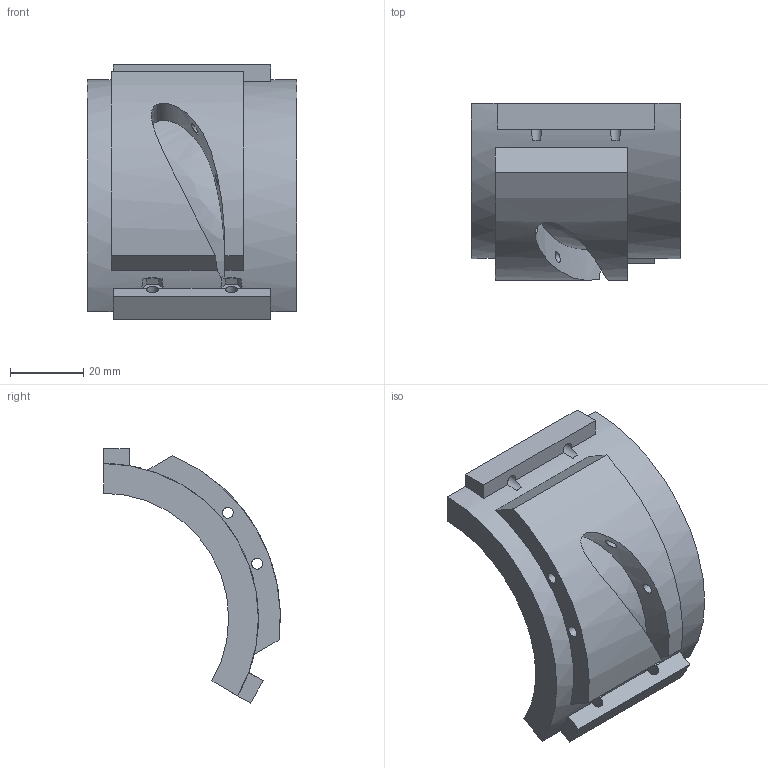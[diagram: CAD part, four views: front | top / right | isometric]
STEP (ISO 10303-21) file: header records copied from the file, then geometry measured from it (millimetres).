
FILE_DESCRIPTION(('Open CASCADE Model'),'2;1');
FILE_NAME('Open CASCADE Shape Model','2026-10-31T23:30:59',('Author'),( 'Open CASCADE'),'Open CASCADE STEP processor 7.9','Open CASCADE 7.9' ,'Unknown');
FILE_SCHEMA(('AUTOMOTIVE_DESIGN { 1 0 10303 214 1 1 1 1 }'));
Length unit declared in the file: millimetre
Products named in the file (1): Open CASCADE STEP translator 7.9 18
Bounding box: 57 x 48.19 x 69.3 mm (x, y, z)
Volume: 31846.3 mm3; surface area: 15745.9 mm2
Topology: 1 solids, 1 shells, 62 faces, 190 edges, 127 vertices
Faces by surface type: plane 43, cylinder 15, bspline 4
Full cylindrical faces by diameter (mm): 3 x4, 3.2 x4
Entity records: 11647 total; most frequent: CARTESIAN_POINT 8019, DIRECTION 619, LINE 385, VECTOR 385, ORIENTED_EDGE 380, PCURVE 380, DEFINITIONAL_REPRESENTATION 380, EDGE_CURVE 190
